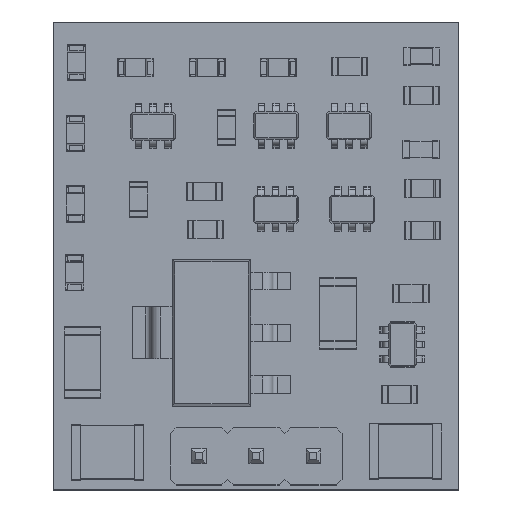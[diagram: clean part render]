
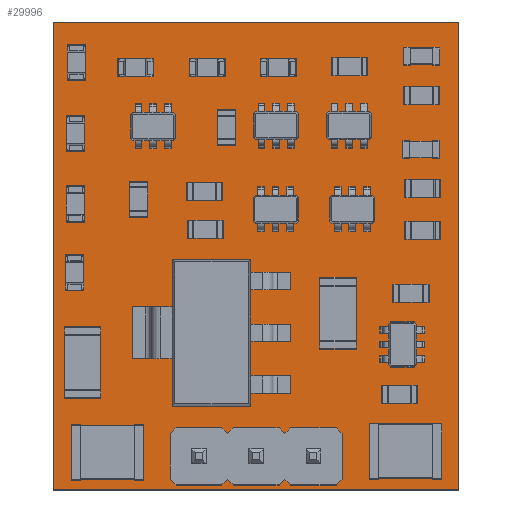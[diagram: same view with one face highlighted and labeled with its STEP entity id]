
A CAD part, top view. The second image highlights one B-rep face of the part: STEP entity #29996.
In plain terms, the highlighted planar face has unit normal (0, 0, 1).
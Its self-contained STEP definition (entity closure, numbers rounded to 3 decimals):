
#29616 = VERTEX_POINT('',#29617);
#29617 = CARTESIAN_POINT('',(20.003,-29.235,1.6));
#29624 = PLANE('',#29625);
#29625 = AXIS2_PLACEMENT_3D('',#29626,#29627,#29628);
#29626 = CARTESIAN_POINT('',(20.003,-29.235,0.));
#29627 = DIRECTION('',(1.,0.,0.));
#29628 = DIRECTION('',(0.,-1.,0.));
#29636 = PLANE('',#29637);
#29637 = AXIS2_PLACEMENT_3D('',#29638,#29639,#29640);
#29638 = CARTESIAN_POINT('',(37.986,-29.245,0.));
#29639 = DIRECTION('',(-0.001,-1.,0.));
#29640 = DIRECTION('',(-1.,0.001,0.));
#29648 = EDGE_CURVE('',#29616,#29649,#29651,.T.);
#29649 = VERTEX_POINT('',#29650);
#29650 = CARTESIAN_POINT('',(20.,-50.,1.6));
#29651 = SURFACE_CURVE('',#29652,(#29656,#29663),.PCURVE_S1.);
#29652 = LINE('',#29653,#29654);
#29653 = CARTESIAN_POINT('',(20.003,-29.235,1.6));
#29654 = VECTOR('',#29655,1.);
#29655 = DIRECTION('',(0.,-1.,0.));
#29656 = PCURVE('',#29624,#29657);
#29657 = DEFINITIONAL_REPRESENTATION('',(#29658),#29662);
#29658 = LINE('',#29659,#29660);
#29659 = CARTESIAN_POINT('',(0.,-1.6));
#29660 = VECTOR('',#29661,1.);
#29661 = DIRECTION('',(1.,0.));
#29662 = ( GEOMETRIC_REPRESENTATION_CONTEXT(2) 
PARAMETRIC_REPRESENTATION_CONTEXT() REPRESENTATION_CONTEXT('2D SPACE',''
  ) );
#29663 = PCURVE('',#29664,#29669);
#29664 = PLANE('',#29665);
#29665 = AXIS2_PLACEMENT_3D('',#29666,#29667,#29668);
#29666 = CARTESIAN_POINT('',(28.996,-39.622,1.6));
#29667 = DIRECTION('',(0.,0.,1.));
#29668 = DIRECTION('',(1.,0.,0.));
#29669 = DEFINITIONAL_REPRESENTATION('',(#29670),#29674);
#29670 = LINE('',#29671,#29672);
#29671 = CARTESIAN_POINT('',(-8.993,10.387));
#29672 = VECTOR('',#29673,1.);
#29673 = DIRECTION('',(0.,-1.));
#29674 = ( GEOMETRIC_REPRESENTATION_CONTEXT(2) 
PARAMETRIC_REPRESENTATION_CONTEXT() REPRESENTATION_CONTEXT('2D SPACE',''
  ) );
#29692 = PLANE('',#29693);
#29693 = AXIS2_PLACEMENT_3D('',#29694,#29695,#29696);
#29694 = CARTESIAN_POINT('',(20.,-50.,0.));
#29695 = DIRECTION('',(0.,1.,0.));
#29696 = DIRECTION('',(1.,0.,0.));
#29736 = VERTEX_POINT('',#29737);
#29737 = CARTESIAN_POINT('',(37.986,-29.245,1.6));
#29751 = PLANE('',#29752);
#29752 = AXIS2_PLACEMENT_3D('',#29753,#29754,#29755);
#29753 = CARTESIAN_POINT('',(38.,-50.,0.));
#29754 = DIRECTION('',(-1.,-0.001,0.));
#29755 = DIRECTION('',(-0.001,1.,0.));
#29763 = EDGE_CURVE('',#29736,#29616,#29764,.T.);
#29764 = SURFACE_CURVE('',#29765,(#29769,#29776),.PCURVE_S1.);
#29765 = LINE('',#29766,#29767);
#29766 = CARTESIAN_POINT('',(37.986,-29.245,1.6));
#29767 = VECTOR('',#29768,1.);
#29768 = DIRECTION('',(-1.,0.001,0.));
#29769 = PCURVE('',#29636,#29770);
#29770 = DEFINITIONAL_REPRESENTATION('',(#29771),#29775);
#29771 = LINE('',#29772,#29773);
#29772 = CARTESIAN_POINT('',(0.,-1.6));
#29773 = VECTOR('',#29774,1.);
#29774 = DIRECTION('',(1.,0.));
#29775 = ( GEOMETRIC_REPRESENTATION_CONTEXT(2) 
PARAMETRIC_REPRESENTATION_CONTEXT() REPRESENTATION_CONTEXT('2D SPACE',''
  ) );
#29776 = PCURVE('',#29664,#29777);
#29777 = DEFINITIONAL_REPRESENTATION('',(#29778),#29782);
#29778 = LINE('',#29779,#29780);
#29779 = CARTESIAN_POINT('',(8.99,10.377));
#29780 = VECTOR('',#29781,1.);
#29781 = DIRECTION('',(-1.,0.001));
#29782 = ( GEOMETRIC_REPRESENTATION_CONTEXT(2) 
PARAMETRIC_REPRESENTATION_CONTEXT() REPRESENTATION_CONTEXT('2D SPACE',''
  ) );
#29810 = EDGE_CURVE('',#29649,#29811,#29813,.T.);
#29811 = VERTEX_POINT('',#29812);
#29812 = CARTESIAN_POINT('',(38.,-50.,1.6));
#29813 = SURFACE_CURVE('',#29814,(#29818,#29825),.PCURVE_S1.);
#29814 = LINE('',#29815,#29816);
#29815 = CARTESIAN_POINT('',(20.,-50.,1.6));
#29816 = VECTOR('',#29817,1.);
#29817 = DIRECTION('',(1.,0.,0.));
#29818 = PCURVE('',#29692,#29819);
#29819 = DEFINITIONAL_REPRESENTATION('',(#29820),#29824);
#29820 = LINE('',#29821,#29822);
#29821 = CARTESIAN_POINT('',(0.,-1.6));
#29822 = VECTOR('',#29823,1.);
#29823 = DIRECTION('',(1.,0.));
#29824 = ( GEOMETRIC_REPRESENTATION_CONTEXT(2) 
PARAMETRIC_REPRESENTATION_CONTEXT() REPRESENTATION_CONTEXT('2D SPACE',''
  ) );
#29825 = PCURVE('',#29664,#29826);
#29826 = DEFINITIONAL_REPRESENTATION('',(#29827),#29831);
#29827 = LINE('',#29828,#29829);
#29828 = CARTESIAN_POINT('',(-8.996,-10.378));
#29829 = VECTOR('',#29830,1.);
#29830 = DIRECTION('',(1.,0.));
#29831 = ( GEOMETRIC_REPRESENTATION_CONTEXT(2) 
PARAMETRIC_REPRESENTATION_CONTEXT() REPRESENTATION_CONTEXT('2D SPACE',''
  ) );
#29923 = CYLINDRICAL_SURFACE('',#29924,0.5);
#29924 = AXIS2_PLACEMENT_3D('',#29925,#29926,#29927);
#29925 = CARTESIAN_POINT('',(26.467,-48.514,-0.8));
#29926 = DIRECTION('',(0.,0.,1.));
#29927 = DIRECTION('',(1.,0.,0.));
#29954 = CYLINDRICAL_SURFACE('',#29955,0.5);
#29955 = AXIS2_PLACEMENT_3D('',#29956,#29957,#29958);
#29956 = CARTESIAN_POINT('',(31.547,-48.514,-0.8));
#29957 = DIRECTION('',(0.,0.,1.));
#29958 = DIRECTION('',(1.,0.,0.));
#29985 = CYLINDRICAL_SURFACE('',#29986,0.5);
#29986 = AXIS2_PLACEMENT_3D('',#29987,#29988,#29989);
#29987 = CARTESIAN_POINT('',(29.007,-48.514,-0.8));
#29988 = DIRECTION('',(0.,0.,1.));
#29989 = DIRECTION('',(1.,0.,0.));
#29996 = ADVANCED_FACE('',(#29997,#30023,#30049,#30075),#29664,.T.);
#29997 = FACE_BOUND('',#29998,.T.);
#29998 = EDGE_LOOP('',(#29999,#30000,#30001,#30022));
#29999 = ORIENTED_EDGE('',*,*,#29648,.T.);
#30000 = ORIENTED_EDGE('',*,*,#29810,.T.);
#30001 = ORIENTED_EDGE('',*,*,#30002,.T.);
#30002 = EDGE_CURVE('',#29811,#29736,#30003,.T.);
#30003 = SURFACE_CURVE('',#30004,(#30008,#30015),.PCURVE_S1.);
#30004 = LINE('',#30005,#30006);
#30005 = CARTESIAN_POINT('',(38.,-50.,1.6));
#30006 = VECTOR('',#30007,1.);
#30007 = DIRECTION('',(-0.001,1.,0.));
#30008 = PCURVE('',#29664,#30009);
#30009 = DEFINITIONAL_REPRESENTATION('',(#30010),#30014);
#30010 = LINE('',#30011,#30012);
#30011 = CARTESIAN_POINT('',(9.004,-10.378));
#30012 = VECTOR('',#30013,1.);
#30013 = DIRECTION('',(-0.001,1.));
#30014 = ( GEOMETRIC_REPRESENTATION_CONTEXT(2) 
PARAMETRIC_REPRESENTATION_CONTEXT() REPRESENTATION_CONTEXT('2D SPACE',''
  ) );
#30015 = PCURVE('',#29751,#30016);
#30016 = DEFINITIONAL_REPRESENTATION('',(#30017),#30021);
#30017 = LINE('',#30018,#30019);
#30018 = CARTESIAN_POINT('',(0.,-1.6));
#30019 = VECTOR('',#30020,1.);
#30020 = DIRECTION('',(1.,0.));
#30021 = ( GEOMETRIC_REPRESENTATION_CONTEXT(2) 
PARAMETRIC_REPRESENTATION_CONTEXT() REPRESENTATION_CONTEXT('2D SPACE',''
  ) );
#30022 = ORIENTED_EDGE('',*,*,#29763,.T.);
#30023 = FACE_BOUND('',#30024,.T.);
#30024 = EDGE_LOOP('',(#30025));
#30025 = ORIENTED_EDGE('',*,*,#30026,.F.);
#30026 = EDGE_CURVE('',#30027,#30027,#30029,.T.);
#30027 = VERTEX_POINT('',#30028);
#30028 = CARTESIAN_POINT('',(29.507,-48.514,1.6));
#30029 = SURFACE_CURVE('',#30030,(#30035,#30042),.PCURVE_S1.);
#30030 = CIRCLE('',#30031,0.5);
#30031 = AXIS2_PLACEMENT_3D('',#30032,#30033,#30034);
#30032 = CARTESIAN_POINT('',(29.007,-48.514,1.6));
#30033 = DIRECTION('',(0.,0.,1.));
#30034 = DIRECTION('',(1.,0.,0.));
#30035 = PCURVE('',#29664,#30036);
#30036 = DEFINITIONAL_REPRESENTATION('',(#30037),#30041);
#30037 = CIRCLE('',#30038,0.5);
#30038 = AXIS2_PLACEMENT_2D('',#30039,#30040);
#30039 = CARTESIAN_POINT('',(0.011,-8.892));
#30040 = DIRECTION('',(1.,0.));
#30041 = ( GEOMETRIC_REPRESENTATION_CONTEXT(2) 
PARAMETRIC_REPRESENTATION_CONTEXT() REPRESENTATION_CONTEXT('2D SPACE',''
  ) );
#30042 = PCURVE('',#29985,#30043);
#30043 = DEFINITIONAL_REPRESENTATION('',(#30044),#30048);
#30044 = LINE('',#30045,#30046);
#30045 = CARTESIAN_POINT('',(0.,2.4));
#30046 = VECTOR('',#30047,1.);
#30047 = DIRECTION('',(1.,0.));
#30048 = ( GEOMETRIC_REPRESENTATION_CONTEXT(2) 
PARAMETRIC_REPRESENTATION_CONTEXT() REPRESENTATION_CONTEXT('2D SPACE',''
  ) );
#30049 = FACE_BOUND('',#30050,.T.);
#30050 = EDGE_LOOP('',(#30051));
#30051 = ORIENTED_EDGE('',*,*,#30052,.F.);
#30052 = EDGE_CURVE('',#30053,#30053,#30055,.T.);
#30053 = VERTEX_POINT('',#30054);
#30054 = CARTESIAN_POINT('',(26.967,-48.514,1.6));
#30055 = SURFACE_CURVE('',#30056,(#30061,#30068),.PCURVE_S1.);
#30056 = CIRCLE('',#30057,0.5);
#30057 = AXIS2_PLACEMENT_3D('',#30058,#30059,#30060);
#30058 = CARTESIAN_POINT('',(26.467,-48.514,1.6));
#30059 = DIRECTION('',(0.,0.,1.));
#30060 = DIRECTION('',(1.,0.,0.));
#30061 = PCURVE('',#29664,#30062);
#30062 = DEFINITIONAL_REPRESENTATION('',(#30063),#30067);
#30063 = CIRCLE('',#30064,0.5);
#30064 = AXIS2_PLACEMENT_2D('',#30065,#30066);
#30065 = CARTESIAN_POINT('',(-2.529,-8.892));
#30066 = DIRECTION('',(1.,0.));
#30067 = ( GEOMETRIC_REPRESENTATION_CONTEXT(2) 
PARAMETRIC_REPRESENTATION_CONTEXT() REPRESENTATION_CONTEXT('2D SPACE',''
  ) );
#30068 = PCURVE('',#29923,#30069);
#30069 = DEFINITIONAL_REPRESENTATION('',(#30070),#30074);
#30070 = LINE('',#30071,#30072);
#30071 = CARTESIAN_POINT('',(0.,2.4));
#30072 = VECTOR('',#30073,1.);
#30073 = DIRECTION('',(1.,0.));
#30074 = ( GEOMETRIC_REPRESENTATION_CONTEXT(2) 
PARAMETRIC_REPRESENTATION_CONTEXT() REPRESENTATION_CONTEXT('2D SPACE',''
  ) );
#30075 = FACE_BOUND('',#30076,.T.);
#30076 = EDGE_LOOP('',(#30077));
#30077 = ORIENTED_EDGE('',*,*,#30078,.F.);
#30078 = EDGE_CURVE('',#30079,#30079,#30081,.T.);
#30079 = VERTEX_POINT('',#30080);
#30080 = CARTESIAN_POINT('',(32.047,-48.514,1.6));
#30081 = SURFACE_CURVE('',#30082,(#30087,#30094),.PCURVE_S1.);
#30082 = CIRCLE('',#30083,0.5);
#30083 = AXIS2_PLACEMENT_3D('',#30084,#30085,#30086);
#30084 = CARTESIAN_POINT('',(31.547,-48.514,1.6));
#30085 = DIRECTION('',(0.,0.,1.));
#30086 = DIRECTION('',(1.,0.,0.));
#30087 = PCURVE('',#29664,#30088);
#30088 = DEFINITIONAL_REPRESENTATION('',(#30089),#30093);
#30089 = CIRCLE('',#30090,0.5);
#30090 = AXIS2_PLACEMENT_2D('',#30091,#30092);
#30091 = CARTESIAN_POINT('',(2.551,-8.892));
#30092 = DIRECTION('',(1.,0.));
#30093 = ( GEOMETRIC_REPRESENTATION_CONTEXT(2) 
PARAMETRIC_REPRESENTATION_CONTEXT() REPRESENTATION_CONTEXT('2D SPACE',''
  ) );
#30094 = PCURVE('',#29954,#30095);
#30095 = DEFINITIONAL_REPRESENTATION('',(#30096),#30100);
#30096 = LINE('',#30097,#30098);
#30097 = CARTESIAN_POINT('',(0.,2.4));
#30098 = VECTOR('',#30099,1.);
#30099 = DIRECTION('',(1.,0.));
#30100 = ( GEOMETRIC_REPRESENTATION_CONTEXT(2) 
PARAMETRIC_REPRESENTATION_CONTEXT() REPRESENTATION_CONTEXT('2D SPACE',''
  ) );
